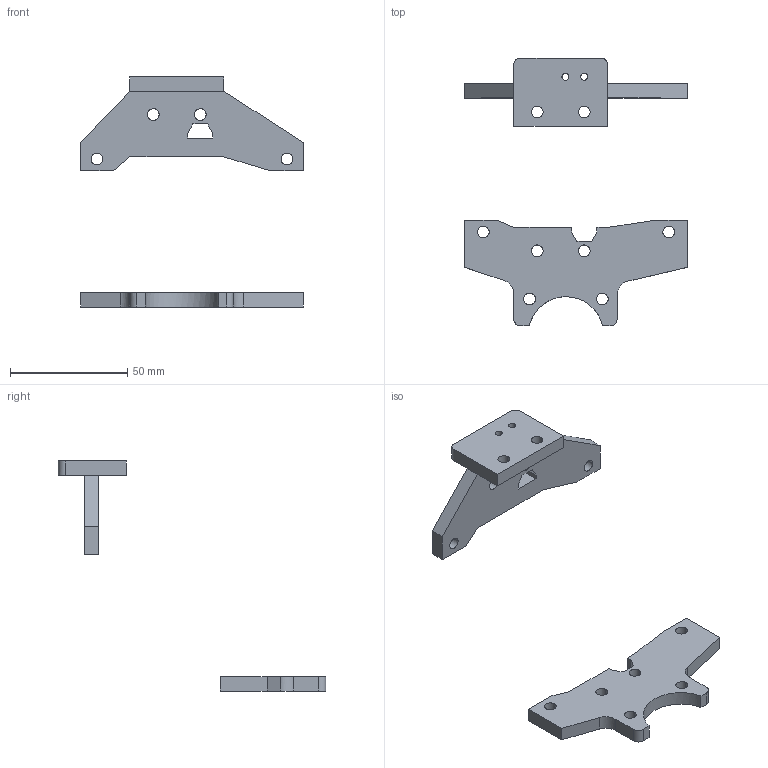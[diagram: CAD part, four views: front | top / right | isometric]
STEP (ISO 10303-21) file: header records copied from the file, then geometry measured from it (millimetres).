
FILE_DESCRIPTION(/* description */ (''),/* implementation_level */ '2;1');
FILE_NAME(/* name */ 'X-70D8~1',/* time_stamp */ '2014-02-14T19:45:14+01:00',/* author */ (''),/* organization */ (''),/* preprocessor_version */ 'ST-DEVELOPER v14',/* originating_system */ '',/* authorisation */ '');
FILE_SCHEMA (('AUTOMOTIVE_DESIGN'));
Length unit declared in the file: millimetre
Products named in the file (1): Document
Bounding box: 95 x 114 x 98 mm (x, y, z)
Volume: 34987.3 mm3; surface area: 17003.8 mm2
Topology: 3 solids, 3 shells, 81 faces, 225 edges, 150 vertices
Faces by surface type: bspline 49, plane 32
Entity records: 5436 total; most frequent: CARTESIAN_POINT 2600, ORIENTED_EDGE 450, PCURVE 450, DEFINITIONAL_REPRESENTATION 450, B_SPLINE_CURVE_WITH_KNOTS 431, SURFACE_CURVE 225, EDGE_CURVE 225, VERTEX_POINT 150
